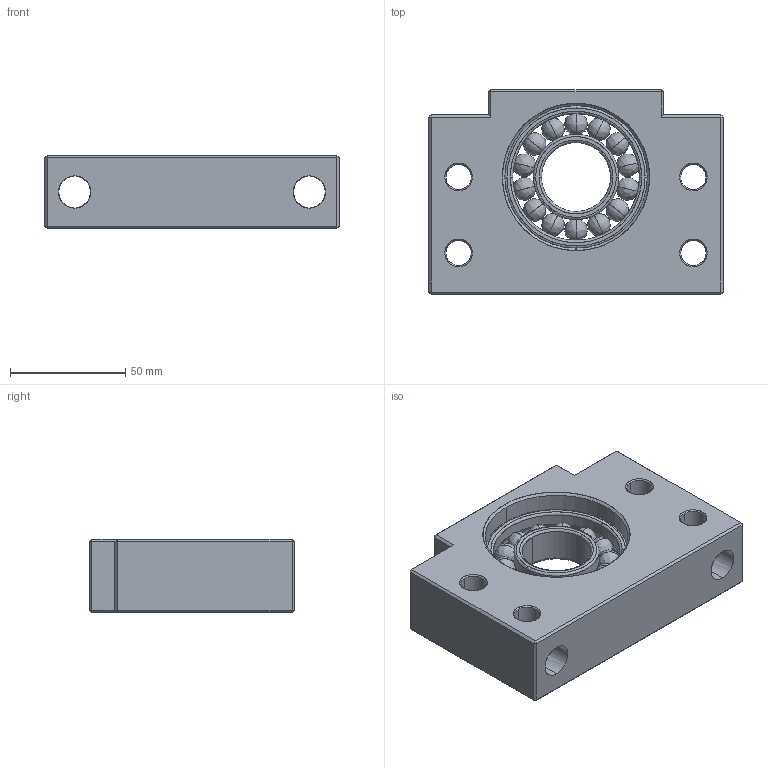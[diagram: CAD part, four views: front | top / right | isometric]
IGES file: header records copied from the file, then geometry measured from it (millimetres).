
Start section: SolidWorks IGES file using analytic representation for surfaces
Global section: file name: Z:\Accessories\_GC_!!!\SYK\Support unit\BF\BF30.IGS; native system: SolidWorks 2015; preprocessor: SolidWorks 2015; author: User; date: 170504.150916; units: millimetre
Bounding box: 128 x 89 x 32 mm (x, y, z)
Surface area: 57949 mm2 (no closed solid volume)
Topology: 0 solids, 0 shells, 162 faces, 2380 edges, 2324 vertices
Faces by surface type: bspline 100, revolution 62
